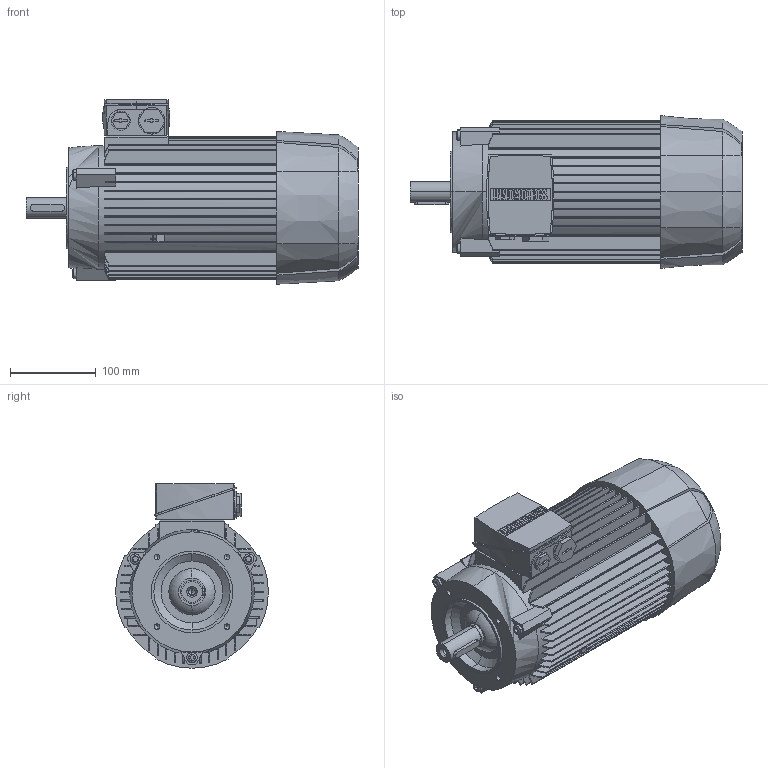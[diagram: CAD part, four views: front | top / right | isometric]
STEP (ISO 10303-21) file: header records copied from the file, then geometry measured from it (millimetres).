
FILE_DESCRIPTION(('STEP AP214'),'1');
FILE_NAME('cctmp_75F59DEB-2CD8-472B-8F8D-E7CDF9833C1F_2026_05_22_09_21_40_0723_46848..stp','2026-05-22T07:21:41',('KiM GmbH'),('CADClick - www.CADClick.com'),'Spatial InterOp 3D',' ','unknown authorization');
FILE_SCHEMA(('AUTOMOTIVE_DESIGN'));
Length unit declared in the file: millimetre
Products named in the file (1): 2026_05_22_09_21_40_0722
Bounding box: 387 x 178 x 215 mm (x, y, z)
Volume: 6621931 mm3; surface area: 449617.2 mm2
Topology: 1 solids, 1 shells, 692 faces, 1943 edges, 1272 vertices
Faces by surface type: plane 429, cylinder 175, torus 54, cone 34
Entity records: 28960 total; most frequent: CARTESIAN_POINT 5403, ORIENTED_EDGE 3842, DIRECTION 3735, EDGE_CURVE 1921, VERTEX_POINT 1272, AXIS2_PLACEMENT_3D 1267, LINE 1201, VECTOR 1201
